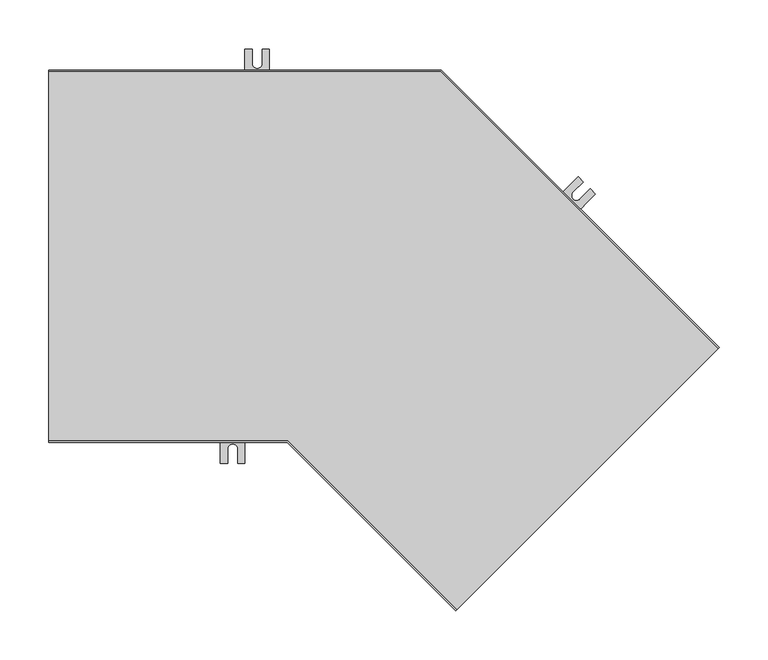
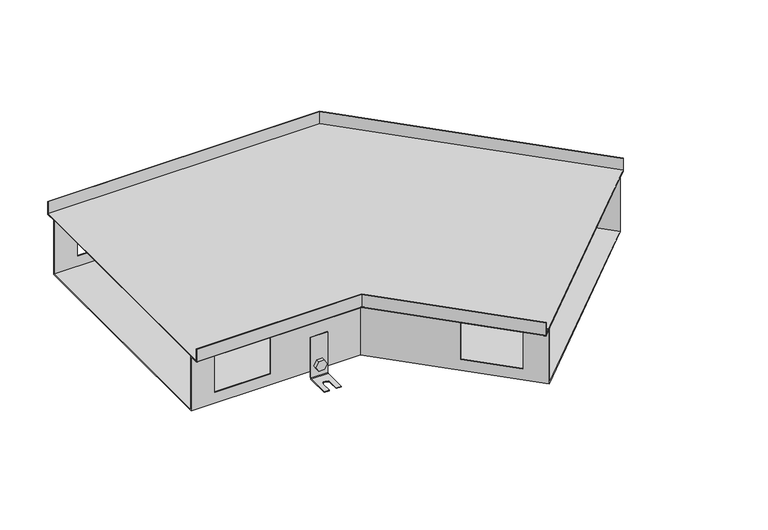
"""IFC4 building model written with IfcOpenShell, lengths in millimetres: proxy geometry, TECHNO_Угловой элемент_KVU : 380_105_135°."""

from ifc_helpers import new_model, si_unit, point, frame, frame_2d, origin, place, context, project, spatial, polyline, circle_curve, ellipse_curve, trimmed, segment, composite_curve, outline, extrude, source, transform, mapped, element, save
from ifc_brep_helpers import plane_surface, cylinder_surface, revolved_surface, advanced_brep


def mechanical_equipment_8923451d(model_context):
    return source(origin(), model_context, "Body", "SolidModel", [
        extrude(outline(composite_curve([segment(trimmed(circle_curve(frame_2d((0.0, -7.5)), 7.5), [point((0.0, -15.0))], [point((0.0, 0.0))], False, "CARTESIAN"), True, "CONTINUOUS"), segment(trimmed(circle_curve(frame_2d((0.0, -7.5)), 7.5), [point((0.0, 0.0))], [point((0.0, -15.0))], False, "CARTESIAN"), True, "CONTINUOUS")], self_intersect=False)), frame((482.1001225, -40.233968, -95.5), z_axis=(0.7071067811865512, 0.7071067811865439, 0.0), x_axis=(0.0, 0.0, 1.0)), (0.0, 0.0, 1.0), 1.5),
        extrude(outline(polyline([(0.0, 0.0), (8.660254, 0.0), (12.990381, -7.5), (8.660254, -15.0), (0.0, -15.0), (-4.330127, -7.5), (0.0, 0.0)])), frame((466.2183246, -33.2617155, -95.5), z_axis=(0.7071067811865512, 0.7071067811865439, 0.0), x_axis=(0.3535533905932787, -0.3535533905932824, -0.8660254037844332)), (0.0, 0.0, 1.0), 5.1),
        advanced_brep(
        [(484.7871283, -44.61803, -50.5), (484.7871283, -44.61803, -113.5), (484.2214429, -45.1837154, -114.3), (460.8869191, -68.5182392, -114.3), (460.8869191, -68.5182392, -115.5), (484.2214429, -45.1837154, -115.5), (485.6356565, -43.7695019, -113.5), (485.6356565, -43.7695019, -50.5), (467.1094588, -26.9403605, -50.5), (467.9579869, -26.0918323, -50.5), (467.9579869, -26.0918323, -113.5), (466.5437734, -27.5060459, -115.5), (443.2092496, -50.8405697, -115.5), (443.2092496, -50.8405697, -114.3), (466.5437734, -27.5060459, -114.3), (467.1094588, -26.9403605, -113.5), (448.5125504, -56.1438705, -114.3), (459.1191522, -45.5372688, -114.3), (466.19022, -52.6083366, -114.3), (455.5836183, -63.2149383, -114.3), (455.5836183, -63.2149383, -115.5), (448.5125504, -56.1438705, -115.5), (466.19022, -52.6083366, -115.5), (459.1191522, -45.5372688, -115.5)],
        [
            (0, 1),
            (1, 2, circle_curve(frame((484.2214429, -45.1837154, -113.5), z_axis=(-0.7071067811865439, 0.7071067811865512, 0.0), x_axis=(-0.7071067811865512, -0.7071067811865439, 0.0)), 0.8)),
            (2, 3),
            (3, 4),
            (4, 5),
            (5, 6, circle_curve(frame((484.2214429, -45.1837154, -113.5), z_axis=(0.7071067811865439, -0.7071067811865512, 0.0), x_axis=(-0.7071067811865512, -0.7071067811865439, 0.0)), 2.0)),
            (6, 7),
            (7, 0),
            (8, 9),
            (9, 10),
            (10, 11, circle_curve(frame((466.5437734, -27.5060459, -113.5), z_axis=(-0.7071067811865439, 0.7071067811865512, 0.0), x_axis=(-0.7071067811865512, -0.7071067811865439, 0.0)), 2.0)),
            (11, 12),
            (12, 13),
            (13, 14),
            (14, 15, circle_curve(frame((466.5437734, -27.5060459, -113.5), z_axis=(0.7071067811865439, -0.7071067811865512, 0.0), x_axis=(-0.7071067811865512, -0.7071067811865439, 0.0)), 0.8)),
            (15, 8),
            (0, 8),
            (15, 1),
            (14, 2),
            (13, 16),
            (16, 17),
            (17, 18, circle_curve(frame((462.6546861, -49.0728027, -114.3), z_axis=(0.0, 0.0, -1.0), x_axis=(0.7071067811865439, -0.7071067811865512, 0.0)), 5.0)),
            (18, 19),
            (19, 3),
            (19, 20),
            (20, 4),
            (12, 21),
            (21, 16),
            (20, 22),
            (22, 23, circle_curve(frame((462.6546861, -49.0728027, -115.5), z_axis=(0.0, 0.0, 1.0), x_axis=(0.7071067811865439, -0.7071067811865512, 0.0)), 5.0)),
            (23, 21),
            (11, 5),
            (10, 6),
            (9, 7),
            (23, 17),
            (18, 22),
        ],
        [
            plane_surface(frame((484.7871283, -44.61803, -50.5), z_axis=(0.7071067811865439, -0.7071067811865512, 0.0), x_axis=(0.0, 0.0, -1.0))),
            plane_surface(frame((467.1094588, -26.9403605, -50.5), z_axis=(-0.7071067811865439, 0.7071067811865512, 0.0), x_axis=(0.0, 0.0, 1.0))),
            plane_surface(frame((484.7871283, -44.61803, -50.5), z_axis=(-0.7071067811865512, -0.7071067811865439, 0.0), x_axis=(-0.7071067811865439, 0.7071067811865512, 0.0))),
            revolved_surface(polyline([(465.97808797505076, -28.071731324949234, -113.5), (483.6557574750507, -45.74940082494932, -113.5)]), (466.5437734, -27.5060459, -113.5), (-0.7071067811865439, 0.7071067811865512, 0.0)),
            plane_surface(frame((484.2214429, -45.1837154, -114.3), z_axis=(0.0, 0.0, 1.0), x_axis=(-0.7071067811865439, 0.7071067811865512, 0.0))),
            plane_surface(frame((460.8869191, -68.5182392, -114.3), z_axis=(-0.7071067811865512, -0.7071067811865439, 0.0), x_axis=(-0.7071067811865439, 0.7071067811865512, 0.0))),
            plane_surface(frame((460.8869191, -68.5182392, -115.5), z_axis=(0.0, 0.0, -1.0), x_axis=(-0.7071067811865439, 0.7071067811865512, 0.0))),
            cylinder_surface(frame((466.5437734, -27.5060459, -113.5), z_axis=(0.7071067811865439, -0.7071067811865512, 0.0), x_axis=(-0.7071067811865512, -0.7071067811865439, 0.0)), 2.0),
            plane_surface(frame((485.6356565, -43.7695019, -113.5), z_axis=(0.7071067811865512, 0.7071067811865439, 0.0), x_axis=(-0.7071067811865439, 0.7071067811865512, 0.0))),
            plane_surface(frame((485.6356565, -43.7695019, -50.5), z_axis=(0.0, 0.0, 1.0), x_axis=(-0.7071067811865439, 0.7071067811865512, 0.0))),
            plane_surface(frame((459.1191522, -45.5372688, -114.3), z_axis=(0.7071067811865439, -0.7071067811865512, 0.0), x_axis=(0.0, 0.0, -1.0))),
            plane_surface(frame((455.5836183, -63.2149383, -114.3), z_axis=(-0.707106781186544, 0.7071067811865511, 0.0), x_axis=(0.0, 0.0, -1.0))),
            revolved_surface(polyline([(466.1902200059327, -52.608336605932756, -114.3), (466.1902200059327, -52.608336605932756, -115.5)]), (462.6546861, -49.0728027, -115.5), (0.0, 0.0, 1.0)),
        ],
        [
            (0, [[1, 2, 3, 4, 5, 6, 7, 8]]),
            (1, [[9, 10, 11, 12, 13, 14, 15, 16]]),
            (2, [[-1, 17, -16, 18]]),
            (3, [[-2, -18, -15, 19]]),
            (4, [[-3, -19, -14, 20, 21, 22, 23, 24]]),
            (5, [[-4, -24, 25, 26]]),
            (5, [[-13, 27, 28, -20]]),
            (6, [[-5, -26, 29, 30, 31, -27, -12, 32]]),
            (7, [[-6, -32, -11, 33]]),
            (8, [[-7, -33, -10, 34]]),
            (9, [[-8, -34, -9, -17]]),
            (10, [[35, -21, -28, -31]]),
            (11, [[36, -29, -25, -23]]),
            (12, [[-35, -30, -36, -22]]),
        ],
    ),
        extrude(outline(composite_curve([segment(trimmed(circle_curve(frame_2d((0.0, -7.5)), 7.5), [point((0.0, -15.0))], [point((0.0, 0.0))], False, "CARTESIAN"), True, "CONTINUOUS"), segment(trimmed(circle_curve(frame_2d((0.0, -7.5)), 7.5), [point((0.0, 0.0))], [point((0.0, -15.0))], False, "CARTESIAN"), True, "CONTINUOUS")], self_intersect=False)), frame((517.6675936, 51.9020456, -95.5), z_axis=(0.7071067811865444, 0.7071067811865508, 0.0), x_axis=(0.0, 0.0, -1.0)), (0.0, 0.0, 1.0), 1.5),
        extrude(outline(polyline([(0.0, 0.0), (4.330127, -7.5), (0.0, -15.0000001), (-8.660254, -15.0), (-12.9903811, -7.5000001), (-8.6602541, 0.0), (0.0, 0.0)])), frame((531.0038072, 42.3842087, -95.5), z_axis=(0.7071067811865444, 0.7071067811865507, 0.0), x_axis=(0.35355339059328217, -0.35355339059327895, 0.8660254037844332)), (0.0, 0.0, 1.0), 5.1),
        advanced_brep(
        [(516.041248, 57.3467678, -50.5), (516.041248, 57.3467678, -113.5), (516.6069335, 57.9124533, -114.3), (539.9414572, 81.2469771, -114.3), (539.9414572, 81.2469771, -115.5), (516.6069335, 57.9124533, -115.5), (515.1927199, 56.4982397, -113.5), (515.1927199, 56.4982397, -50.5), (533.7189176, 39.6690983, -50.5), (532.8703894, 38.8205702, -50.5), (532.8703894, 38.8205702, -113.5), (534.284603, 40.2347837, -115.5), (557.6191268, 63.5693075, -115.5), (557.6191268, 63.5693075, -114.3), (534.284603, 40.2347837, -114.3), (533.7189176, 39.6690983, -113.5), (552.3158259, 68.8726084, -114.3), (541.7092242, 58.2660067, -114.3), (534.6381564, 65.3370745, -114.3), (545.2447581, 75.9436762, -114.3), (545.2447581, 75.9436762, -115.5), (552.3158259, 68.8726084, -115.5), (534.6381564, 65.3370745, -115.5), (541.7092242, 58.2660067, -115.5)],
        [
            (0, 1),
            (1, 2, circle_curve(frame((516.6069335, 57.9124533, -113.5), z_axis=(0.7071067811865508, -0.7071067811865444, 0.0), x_axis=(0.7071067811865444, 0.7071067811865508, 0.0)), 0.8)),
            (2, 3),
            (3, 4),
            (4, 5),
            (5, 6, circle_curve(frame((516.6069335, 57.9124533, -113.5), z_axis=(-0.7071067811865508, 0.7071067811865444, 0.0), x_axis=(0.7071067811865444, 0.7071067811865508, 0.0)), 2.0)),
            (6, 7),
            (7, 0),
            (8, 9),
            (9, 10),
            (10, 11, circle_curve(frame((534.284603, 40.2347837, -113.5), z_axis=(0.7071067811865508, -0.7071067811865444, 0.0), x_axis=(0.7071067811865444, 0.7071067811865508, 0.0)), 2.0)),
            (11, 12),
            (12, 13),
            (13, 14),
            (14, 15, circle_curve(frame((534.284603, 40.2347837, -113.5), z_axis=(-0.7071067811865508, 0.7071067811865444, 0.0), x_axis=(0.7071067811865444, 0.7071067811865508, 0.0)), 0.8)),
            (15, 8),
            (0, 8),
            (15, 1),
            (14, 2),
            (13, 16),
            (16, 17),
            (17, 18, circle_curve(frame((538.1736903, 61.8015406, -114.3), z_axis=(0.0, 0.0, -1.0), x_axis=(-0.7071067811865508, 0.7071067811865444, 0.0)), 5.0)),
            (18, 19),
            (19, 3),
            (19, 20),
            (20, 4),
            (12, 21),
            (21, 16),
            (20, 22),
            (22, 23, circle_curve(frame((538.1736903, 61.8015406, -115.5), z_axis=(0.0, 0.0, 1.0), x_axis=(-0.7071067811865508, 0.7071067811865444, 0.0)), 5.0)),
            (23, 21),
            (11, 5),
            (10, 6),
            (9, 7),
            (23, 17),
            (18, 22),
        ],
        [
            plane_surface(frame((516.041248, 57.3467678, -50.5), z_axis=(-0.7071067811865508, 0.7071067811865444, 0.0), x_axis=(0.0, 0.0, -1.0))),
            plane_surface(frame((533.7189176, 39.6690983, -50.5), z_axis=(0.7071067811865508, -0.7071067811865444, 0.0), x_axis=(0.0, 0.0, 1.0))),
            plane_surface(frame((516.041248, 57.3467678, -50.5), z_axis=(0.7071067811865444, 0.7071067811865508, 0.0), x_axis=(0.7071067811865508, -0.7071067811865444, 0.0))),
            revolved_surface(polyline([(534.8502884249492, 40.800469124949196, -113.5), (517.1726188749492, 58.47813867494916, -113.5)]), (534.284603, 40.2347837, -113.5), (0.7071067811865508, -0.7071067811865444, 0.0)),
            plane_surface(frame((516.6069335, 57.9124533, -114.3), z_axis=(0.0, 0.0, 1.0000000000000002), x_axis=(0.7071067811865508, -0.7071067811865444, 0.0))),
            plane_surface(frame((539.9414572, 81.2469771, -114.3), z_axis=(0.7071067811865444, 0.7071067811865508, 0.0), x_axis=(0.7071067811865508, -0.7071067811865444, 0.0))),
            plane_surface(frame((539.9414572, 81.2469771, -115.5), z_axis=(0.0, 0.0, -1.0000000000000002), x_axis=(0.7071067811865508, -0.7071067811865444, 0.0))),
            cylinder_surface(frame((534.284603, 40.2347837, -113.5), z_axis=(-0.7071067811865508, 0.7071067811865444, 0.0), x_axis=(0.7071067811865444, 0.7071067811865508, 0.0)), 2.0),
            plane_surface(frame((515.1927199, 56.4982397, -113.5), z_axis=(-0.7071067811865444, -0.7071067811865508, 0.0), x_axis=(0.7071067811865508, -0.7071067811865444, 0.0))),
            plane_surface(frame((515.1927199, 56.4982397, -50.5), z_axis=(0.0, 0.0, 1.0000000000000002), x_axis=(0.7071067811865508, -0.7071067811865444, 0.0))),
            plane_surface(frame((541.7092242, 58.2660067, -114.3), z_axis=(-0.7071067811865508, 0.7071067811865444, 0.0), x_axis=(0.0, 0.0, -1.0))),
            plane_surface(frame((545.2447581, 75.9436762, -114.3), z_axis=(0.7071067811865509, -0.7071067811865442, 0.0), x_axis=(0.0, 0.0, -1.0))),
            revolved_surface(polyline([(534.6381563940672, 65.33707450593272, -114.3), (534.6381563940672, 65.33707450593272, -115.5)]), (538.1736903, 61.8015406, -115.5), (0.0, 0.0, 1.0)),
        ],
        [
            (0, [[1, 2, 3, 4, 5, 6, 7, 8]]),
            (1, [[9, 10, 11, 12, 13, 14, 15, 16]]),
            (2, [[-1, 17, -16, 18]]),
            (3, [[-2, -18, -15, 19]]),
            (4, [[-3, -19, -14, 20, 21, 22, 23, 24]]),
            (5, [[-4, -24, 25, 26]]),
            (5, [[-13, 27, 28, -20]]),
            (6, [[-5, -26, 29, 30, 31, -27, -12, 32]]),
            (7, [[-6, -32, -11, 33]]),
            (8, [[-7, -33, -10, 34]]),
            (9, [[-8, -34, -9, -17]]),
            (10, [[35, -21, -28, -31]]),
            (11, [[36, -29, -25, -23]]),
            (12, [[-35, -30, -36, -22]]),
        ],
    ),
        extrude(outline(composite_curve([segment(trimmed(circle_curve(frame_2d((-95.5, 212.5)), 7.5), [point((-95.5, 205.0))], [point((-95.5, 220.0))], False, "CARTESIAN"), True, "CONTINUOUS"), segment(trimmed(circle_curve(frame_2d((-95.5, 212.5)), 7.5), [point((-95.5, 220.0))], [point((-95.5, 205.0))], False, "CARTESIAN"), True, "CONTINUOUS")], self_intersect=False)), frame((0.0, 175.2, 0.0), z_axis=(0.0, 1.0, 0.0), x_axis=(0.0, 0.0, 1.0)), (0.0, 0.0, 1.0), 1.5),
        extrude(outline(polyline([(-95.5, 203.839746), (-103.0, 208.169873), (-103.0, 216.830127), (-95.5, 221.160254), (-88.0, 216.830127), (-88.0, 208.169873), (-95.5, 203.839746)])), frame((0.0, 177.9, 0.0), z_axis=(0.0, 1.0, 0.0), x_axis=(0.0, 0.0, 1.0)), (0.0, 0.0, 1.0), 5.1),
        advanced_brep(
        [(225.0, 177.9, -50.5), (225.0, 176.7, -50.5), (225.0, 176.7, -113.5), (225.0, 178.7, -115.5), (225.0, 211.7, -115.5), (225.0, 211.7, -114.3), (225.0, 178.7, -114.3), (225.0, 177.9, -113.5), (200.0, 177.9, -50.5), (200.0, 177.9, -113.5), (200.0, 178.7, -114.3), (200.0, 211.7, -114.3), (200.0, 211.7, -115.5), (200.0, 178.7, -115.5), (200.0, 176.7, -113.5), (200.0, 176.7, -50.5), (217.5, 211.7, -114.3), (217.5, 196.7, -114.3), (207.5, 196.7, -114.3), (207.5, 211.7, -114.3), (207.5, 211.7, -115.5), (217.5, 211.7, -115.5), (207.5, 196.7, -115.5), (217.5, 196.7, -115.5)],
        [
            (0, 1),
            (1, 2),
            (2, 3, circle_curve(frame((225.0, 178.7, -113.5), z_axis=(1.0, 0.0, 0.0), x_axis=(0.0, 1.0, 0.0)), 2.0)),
            (3, 4),
            (4, 5),
            (5, 6),
            (6, 7, circle_curve(frame((225.0, 178.7, -113.5), z_axis=(-1.0, 0.0, 0.0), x_axis=(0.0, 1.0, 0.0)), 0.8)),
            (7, 0),
            (8, 9),
            (9, 10, circle_curve(frame((200.0, 178.7, -113.5), z_axis=(1.0, 0.0, 0.0), x_axis=(0.0, 1.0, 0.0)), 0.8)),
            (10, 11),
            (11, 12),
            (12, 13),
            (13, 14, circle_curve(frame((200.0, 178.7, -113.5), z_axis=(-1.0, 0.0, 0.0), x_axis=(0.0, 1.0, 0.0)), 2.0)),
            (14, 15),
            (15, 8),
            (7, 9),
            (8, 0),
            (6, 10),
            (5, 16),
            (16, 17),
            (17, 18, circle_curve(frame((212.5, 196.7, -114.3), z_axis=(0.0, 0.0, -1.0), x_axis=(1.0, 0.0, 0.0)), 5.0)),
            (18, 19),
            (19, 11),
            (19, 20),
            (20, 12),
            (4, 21),
            (21, 16),
            (3, 13),
            (20, 22),
            (22, 23, circle_curve(frame((212.5, 196.7, -115.5), z_axis=(0.0, 0.0, 1.0), x_axis=(1.0, 0.0, 0.0)), 5.0)),
            (23, 21),
            (2, 14),
            (1, 15),
            (18, 22),
            (23, 17),
        ],
        [
            plane_surface(frame((225.0, 177.9, -50.5), z_axis=(1.0, 0.0, 0.0), x_axis=(0.0, 0.0, -1.0))),
            plane_surface(frame((200.0, 177.9, -50.5), z_axis=(-1.0, 0.0, 0.0), x_axis=(0.0, 0.0, 1.0))),
            plane_surface(frame((225.0, 177.9, -50.5), z_axis=(0.0, 1.0, 0.0), x_axis=(-1.0, 0.0, 0.0))),
            revolved_surface(polyline([(200.0, 179.5, -113.5), (225.0, 179.5, -113.5)]), (200.0, 178.7, -113.5), (-1.0, 0.0, 0.0)),
            plane_surface(frame((225.0, 178.7, -114.3), z_axis=(0.0, 0.0, 1.0), x_axis=(-1.0, 0.0, 0.0))),
            plane_surface(frame((225.0, 211.7, -114.3), z_axis=(0.0, 1.0, 0.0), x_axis=(-1.0, 0.0, 0.0))),
            plane_surface(frame((225.0, 211.7, -115.5), z_axis=(0.0, 0.0, -1.0), x_axis=(-1.0, 0.0, 0.0))),
            cylinder_surface(frame((200.0, 178.7, -113.5), z_axis=(1.0, 0.0, 0.0), x_axis=(0.0, 1.0, 0.0)), 2.0),
            plane_surface(frame((225.0, 176.7, -113.5), z_axis=(0.0, -1.0, 0.0), x_axis=(-1.0, 0.0, 0.0))),
            plane_surface(frame((225.0, 176.7, -50.5), z_axis=(0.0, 0.0, 1.0), x_axis=(-1.0, 0.0, 0.0))),
            plane_surface(frame((207.5, 196.7, -114.3), z_axis=(1.0, 0.0, 0.0), x_axis=(0.0, 0.0, -1.0))),
            plane_surface(frame((217.5, 211.7, -114.3), z_axis=(-1.0, 0.0, 0.0), x_axis=(0.0, 0.0, -1.0))),
            revolved_surface(polyline([(217.5, 196.7, -114.3), (217.5, 196.7, -115.5)]), (212.5, 196.7, -115.5), (0.0, 0.0, 1.0)),
        ],
        [
            (0, [[1, 2, 3, 4, 5, 6, 7, 8]]),
            (1, [[9, 10, 11, 12, 13, 14, 15, 16]]),
            (2, [[17, -9, 18, -8]]),
            (3, [[19, -10, -17, -7]]),
            (4, [[20, 21, 22, 23, 24, -11, -19, -6]]),
            (5, [[-24, 25, 26, -12]]),
            (5, [[27, 28, -20, -5]]),
            (6, [[29, -13, -26, 30, 31, 32, -27, -4]]),
            (7, [[33, -14, -29, -3]]),
            (8, [[34, -15, -33, -2]]),
            (9, [[-18, -16, -34, -1]]),
            (10, [[-30, -25, -23, 35]]),
            (11, [[-21, -28, -32, 36]]),
            (12, [[-22, -36, -31, -35]]),
        ],
    ),
        extrude(outline(composite_curve([segment(trimmed(circle_curve(frame_2d((-95.5, 187.5)), 7.5), [point((-95.5, 180.0))], [point((-95.5, 195.0))], False, "CARTESIAN"), True, "CONTINUOUS"), segment(trimmed(circle_curve(frame_2d((-95.5, 187.5)), 7.5), [point((-95.5, 195.0))], [point((-95.5, 180.0))], False, "CARTESIAN"), True, "CONTINUOUS")], self_intersect=False)), frame((0.0, -176.7, 0.0), z_axis=(0.0, 1.0, 0.0), x_axis=(0.0, 0.0, 1.0)), (0.0, 0.0, 1.0), 1.5),
        extrude(outline(polyline([(-95.5, 178.839746), (-103.0, 183.169873), (-103.0, 191.830127), (-95.5, 196.160254), (-88.0, 191.830127), (-88.0, 183.169873), (-95.5, 178.839746)])), frame((0.0, -183.0, 0.0), z_axis=(0.0, 1.0, 0.0), x_axis=(0.0, 0.0, 1.0)), (0.0, 0.0, 1.0), 5.1),
        advanced_brep(
        [(200.0, -177.9, -50.5), (200.0, -177.9, -113.5), (200.0, -178.7, -114.3), (200.0, -211.7, -114.3), (200.0, -211.7, -115.5), (200.0, -178.7, -115.5), (200.0, -176.7, -113.5), (200.0, -176.7, -50.5), (175.0, -177.9, -50.5), (175.0, -176.7, -50.5), (175.0, -176.7, -113.5), (175.0, -178.7, -115.5), (175.0, -211.7, -115.5), (175.0, -211.7, -114.3), (175.0, -178.7, -114.3), (175.0, -177.9, -113.5), (182.5, -211.7, -114.3), (182.5, -196.7, -114.3), (192.5, -196.7, -114.3), (192.5, -211.7, -114.3), (192.5, -211.7, -115.5), (182.5, -211.7, -115.5), (192.5, -196.7, -115.5), (182.5, -196.7, -115.5)],
        [
            (0, 1),
            (1, 2, circle_curve(frame((200.0, -178.7, -113.5), z_axis=(-1.0, 0.0, 0.0), x_axis=(0.0, -1.0, 0.0)), 0.8)),
            (2, 3),
            (3, 4),
            (4, 5),
            (5, 6, circle_curve(frame((200.0, -178.7, -113.5), z_axis=(1.0, 0.0, 0.0), x_axis=(0.0, -1.0, 0.0)), 2.0)),
            (6, 7),
            (7, 0),
            (8, 9),
            (9, 10),
            (10, 11, circle_curve(frame((175.0, -178.7, -113.5), z_axis=(-1.0, 0.0, 0.0), x_axis=(0.0, -1.0, 0.0)), 2.0)),
            (11, 12),
            (12, 13),
            (13, 14),
            (14, 15, circle_curve(frame((175.0, -178.7, -113.5), z_axis=(1.0, 0.0, 0.0), x_axis=(0.0, -1.0, 0.0)), 0.8)),
            (15, 8),
            (0, 8),
            (15, 1),
            (14, 2),
            (13, 16),
            (16, 17),
            (17, 18, circle_curve(frame((187.5, -196.7, -114.3), z_axis=(0.0, 0.0, -1.0), x_axis=(1.0, 0.0, 0.0)), 5.0)),
            (18, 19),
            (19, 3),
            (19, 20),
            (20, 4),
            (12, 21),
            (21, 16),
            (20, 22),
            (22, 23, circle_curve(frame((187.5, -196.7, -115.5), z_axis=(0.0, 0.0, 1.0), x_axis=(1.0, 0.0, 0.0)), 5.0)),
            (23, 21),
            (11, 5),
            (10, 6),
            (9, 7),
            (23, 17),
            (18, 22),
        ],
        [
            plane_surface(frame((200.0, -177.9, -50.5), z_axis=(1.0, 0.0, 0.0), x_axis=(0.0, 0.0, -1.0))),
            plane_surface(frame((175.0, -177.9, -50.5), z_axis=(-1.0, 0.0, 0.0), x_axis=(0.0, 0.0, 1.0))),
            plane_surface(frame((200.0, -177.9, -50.5), z_axis=(0.0, -1.0, 0.0), x_axis=(-1.0, 0.0, 0.0))),
            revolved_surface(polyline([(175.0, -179.5, -113.5), (200.0, -179.5, -113.5)]), (175.0, -178.7, -113.5), (-1.0, 0.0, 0.0)),
            plane_surface(frame((200.0, -178.7, -114.3), z_axis=(0.0, 0.0, 1.0), x_axis=(-1.0, 0.0, 0.0))),
            plane_surface(frame((200.0, -211.7, -114.3), z_axis=(0.0, -1.0, 0.0), x_axis=(-1.0, 0.0, 0.0))),
            plane_surface(frame((200.0, -211.7, -115.5), z_axis=(0.0, 0.0, -1.0), x_axis=(-1.0, 0.0, 0.0))),
            cylinder_surface(frame((175.0, -178.7, -113.5), z_axis=(1.0, 0.0, 0.0), x_axis=(0.0, -1.0, 0.0)), 2.0),
            plane_surface(frame((200.0, -176.7, -113.5), z_axis=(0.0, 1.0, 0.0), x_axis=(-1.0, 0.0, 0.0))),
            plane_surface(frame((200.0, -176.7, -50.5), z_axis=(0.0, 0.0, 1.0), x_axis=(-1.0, 0.0, 0.0))),
            plane_surface(frame((182.5, -196.7, -114.3), z_axis=(1.0, 0.0, 0.0), x_axis=(0.0, 0.0, -1.0))),
            plane_surface(frame((192.5, -211.7, -114.3), z_axis=(-1.0, 0.0, 0.0), x_axis=(0.0, 0.0, -1.0))),
            revolved_surface(polyline([(192.5, -196.7, -114.3), (192.5, -196.7, -115.5)]), (187.5, -196.7, -115.5), (0.0, 0.0, 1.0)),
        ],
        [
            (0, [[1, 2, 3, 4, 5, 6, 7, 8]]),
            (1, [[9, 10, 11, 12, 13, 14, 15, 16]]),
            (2, [[-1, 17, -16, 18]]),
            (3, [[-2, -18, -15, 19]]),
            (4, [[-3, -19, -14, 20, 21, 22, 23, 24]]),
            (5, [[-4, -24, 25, 26]]),
            (5, [[-13, 27, 28, -20]]),
            (6, [[-5, -26, 29, 30, 31, -27, -12, 32]]),
            (7, [[-6, -32, -11, 33]]),
            (8, [[-7, -33, -10, 34]]),
            (9, [[-8, -34, -9, -17]]),
            (10, [[35, -21, -28, -31]]),
            (11, [[36, -29, -25, -23]]),
            (12, [[-35, -30, -36, -22]]),
        ],
    ),
        extrude(outline(polyline([(682.8477377, -94.044794), (415.8442172, -361.0483146), (243.5959026, -188.8), (0.0, -188.8), (0.0, 188.8), (400.0029437, 188.8), (682.8477377, -94.044794)])), frame((0.0, 0.0, -19.3), z_axis=(0.0, 0.0, 1.0), x_axis=(1.0, 0.0, 0.0)), (0.0, 0.0, 1.0), 1.2),
        advanced_brep(
        [(414.995689, -361.8968427, -19.3), (415.8442172, -361.0483146, -20.5), (425.4608694, -351.4316624, -20.5), (425.4608694, -351.4316624, -105.0), (673.2310855, -103.6614462, -105.0), (673.2310855, -103.6614462, -20.5), (682.8477377, -94.044794, -20.5), (683.6962659, -93.1962659, -19.3), (683.6962659, -93.1962659, 0.0), (682.8477377, -94.044794, 0.0), (682.8477377, -94.044794, -19.3), (673.2310855, -103.6614462, -19.3), (672.3825574, -104.5099744, -20.5), (672.3825574, -104.5099744, -103.8), (426.3093975, -350.5831342, -103.8), (426.3093975, -350.5831342, -20.5), (425.4608694, -351.4316624, -19.3), (415.8442172, -361.0483146, -19.3), (415.8442172, -361.0483146, 0.0), (414.995689, -361.8968427, 0.0), (0.0, -190.0, -19.3), (0.0, -190.0, 0.0), (0.0, -188.8, 0.0), (0.0, -188.8, -19.3), (0.0, -175.2, -19.3), (0.0, -174.0, -20.5), (0.0, -174.0, -103.8), (0.0, 174.0, -103.8), (0.0, 174.0, -20.5), (0.0, 175.2, -19.3), (0.0, 188.8, -19.3), (0.0, 188.8, 0.0), (0.0, 190.0, 0.0), (0.0, 190.0, -19.3), (0.0, 188.8, -20.5), (0.0, 175.2, -20.5), (0.0, 175.2, -105.0), (0.0, -175.2, -105.0), (0.0, -175.2, -20.5), (0.0, -188.8, -20.5), (243.5959026, -188.8, -20.5), (243.0988463, -190.0, -19.3), (243.5959026, -188.8, 0.0), (243.5959026, -188.8, -19.3), (249.229207, -175.2, -105.0), (249.229207, -175.2, -20.5), (35.0, -175.2, -31.0), (117.0, -175.2, -31.0), (117.0, -175.2, -88.0), (35.0, -175.2, -88.0), (249.7262633, -174.0, -20.5), (249.7262633, -174.0, -103.8), (117.0, -174.0, -31.0), (35.0, -174.0, -31.0), (35.0, -174.0, -88.0), (117.0, -174.0, -88.0), (249.229207, -175.2, -19.3), (342.729376, -268.700169, -31.0), (400.712132, -326.682925, -31.0), (400.712132, -326.682925, -88.0), (342.729376, -268.700169, -88.0), (394.3696393, 175.2, -105.0), (393.872583, 174.0, -103.8), (401.5606602, -325.8343969, -31.0), (343.5779041, -267.8516408, -31.0), (343.5779041, -267.8516408, -88.0), (401.5606602, -325.8343969, -88.0), (243.0988463, -190.0, 0.0), (394.3696393, 175.2, -20.5), (648.4823482, -78.9127089, -31.0), (590.4995921, -20.9299528, -31.0), (590.4995921, -20.9299528, -88.0), (648.4823482, -78.9127089, -88.0), (400.0029437, 188.8, -20.5), (400.5, 190.0, -19.3), (400.5, 190.0, 0.0), (400.0029437, 188.8, 0.0), (400.0029437, 188.8, -19.3), (394.3696393, 175.2, -19.3), (393.872583, 174.0, -20.5), (589.651064, -21.778481, -31.0), (647.63382, -79.761237, -31.0), (647.63382, -79.761237, -88.0), (589.651064, -21.778481, -88.0), (117.0, 175.2, -31.0), (35.0, 175.2, -31.0), (35.0, 175.2, -88.0), (117.0, 175.2, -88.0), (35.0, 174.0, -31.0), (117.0, 174.0, -31.0), (117.0, 174.0, -88.0), (35.0, 174.0, -88.0)],
        [
            (0, 1, circle_curve(frame((415.8442172, -361.0483146, -19.3), z_axis=(0.707106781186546, -0.707106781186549, 0.0), x_axis=(-0.707106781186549, -0.707106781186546, 0.0)), 1.2)),
            (1, 2),
            (2, 3),
            (3, 4),
            (4, 5),
            (5, 6),
            (6, 7, circle_curve(frame((682.8477377, -94.044794, -19.3), z_axis=(0.707106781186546, -0.707106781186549, 0.0), x_axis=(-0.707106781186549, -0.707106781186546, 0.0)), 1.2)),
            (7, 8),
            (8, 9),
            (9, 10),
            (10, 11),
            (11, 12, circle_curve(frame((673.2310855, -103.6614462, -20.5), z_axis=(0.707106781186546, -0.707106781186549, 0.0), x_axis=(-0.707106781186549, -0.707106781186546, 0.0)), 1.2)),
            (12, 13),
            (13, 14),
            (14, 15),
            (15, 16, circle_curve(frame((425.4608694, -351.4316624, -20.5), z_axis=(0.707106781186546, -0.707106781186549, 0.0), x_axis=(-0.707106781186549, -0.707106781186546, 0.0)), 1.2)),
            (16, 17),
            (17, 18),
            (18, 19),
            (19, 0),
            (20, 21),
            (21, 22),
            (22, 23),
            (23, 24),
            (24, 25, circle_curve(frame((0.0, -175.2, -20.5), z_axis=(-1.0, 0.0, 0.0), x_axis=(0.0, -1.0, 0.0)), 1.2)),
            (25, 26),
            (26, 27),
            (27, 28),
            (28, 29, circle_curve(frame((0.0, 175.2, -20.5), z_axis=(-1.0, 0.0, 0.0), x_axis=(0.0, -1.0, 0.0)), 1.2)),
            (29, 30),
            (30, 31),
            (31, 32),
            (32, 33),
            (33, 34, circle_curve(frame((0.0, 188.8, -19.3), z_axis=(-1.0, 0.0, 0.0), x_axis=(0.0, -1.0, 0.0)), 1.2)),
            (34, 35),
            (35, 36),
            (36, 37),
            (37, 38),
            (38, 39),
            (39, 20, circle_curve(frame((0.0, -188.8, -19.3), z_axis=(-1.0, 0.0, 0.0), x_axis=(0.0, -1.0, 0.0)), 1.2)),
            (39, 40),
            (40, 41, ellipse_curve(frame((243.5959026, -188.8, -19.3), z_axis=(-0.9238795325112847, 0.3826834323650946, 0.0), x_axis=(0.3826834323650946, 0.9238795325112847, 0.0)), 1.2988706, 1.2)),
            (41, 20),
            (22, 42),
            (42, 43),
            (43, 23),
            (37, 44),
            (44, 45),
            (45, 38),
            (46, 47),
            (47, 48),
            (48, 49),
            (49, 46),
            (25, 50),
            (50, 51),
            (51, 26),
            (52, 53),
            (53, 54),
            (54, 55),
            (55, 52),
            (24, 56),
            (56, 50, ellipse_curve(frame((249.229207, -175.2, -20.5), z_axis=(-0.9238795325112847, 0.3826834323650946, 0.0), x_axis=(0.3826834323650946, 0.9238795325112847, 0.0)), 1.2988706, 1.2)),
            (0, 41),
            (40, 1),
            (45, 2),
            (44, 3),
            (57, 58),
            (58, 59),
            (59, 60),
            (60, 57),
            (36, 61),
            (61, 4),
            (13, 62),
            (62, 27),
            (51, 14),
            (50, 15),
            (63, 64),
            (64, 65),
            (65, 66),
            (66, 63),
            (56, 16),
            (43, 17),
            (42, 18),
            (21, 67),
            (67, 19),
            (61, 68),
            (68, 5),
            (69, 70),
            (70, 71),
            (71, 72),
            (72, 69),
            (68, 35),
            (34, 73),
            (73, 6),
            (73, 74, ellipse_curve(frame((400.0029437, 188.8, -19.3), z_axis=(0.9238795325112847, -0.3826834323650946, 0.0), x_axis=(-0.38268343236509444, -0.9238795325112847, 0.0)), 1.2988706, 1.2)),
            (74, 7),
            (74, 75),
            (75, 8),
            (75, 32),
            (31, 76),
            (76, 9),
            (76, 77),
            (77, 10),
            (77, 30),
            (29, 78),
            (78, 11),
            (78, 79, ellipse_curve(frame((394.3696393, 175.2, -20.5), z_axis=(0.9238795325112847, -0.3826834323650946, 0.0), x_axis=(-0.38268343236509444, -0.9238795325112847, 0.0)), 1.2988706, 1.2)),
            (79, 12),
            (79, 62),
            (80, 81),
            (81, 82),
            (82, 83),
            (83, 80),
            (84, 85),
            (85, 86),
            (86, 87),
            (87, 84),
            (33, 74),
            (28, 79),
            (88, 89),
            (89, 90),
            (90, 91),
            (91, 88),
            (41, 67),
            (46, 53),
            (52, 47),
            (88, 85),
            (84, 89),
            (49, 54),
            (91, 86),
            (48, 55),
            (90, 87),
            (57, 64),
            (63, 58),
            (80, 70),
            (69, 81),
            (66, 59),
            (72, 82),
            (65, 60),
            (71, 83),
        ],
        [
            plane_surface(frame((549.3459774, -227.5465543, 0.0), z_axis=(0.707106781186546, -0.707106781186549, 0.0), x_axis=(0.0, 0.0, 1.0))),
            plane_surface(frame((0.0, 0.0, 0.0), z_axis=(-1.0, 0.0, 0.0), x_axis=(0.0, 0.0, 1.0))),
            cylinder_surface(frame((321.7994231, -188.8, -19.3), z_axis=(1.0, 0.0, 0.0), x_axis=(0.0, -1.0, 0.0)), 1.2),
            plane_surface(frame((243.5959026, -188.8, -19.3), z_axis=(0.0, 1.0, 0.0), x_axis=(-1.0, 0.0, 0.0))),
            plane_surface(frame((249.229207, -175.2, -20.5), z_axis=(0.0, -1.0, 0.0), x_axis=(-1.0, 0.0, 0.0))),
            plane_surface(frame((249.7262633, -174.0, -103.8), z_axis=(0.0, 1.0, 0.0), x_axis=(-1.0, 0.0, 0.0))),
            cylinder_surface(frame((321.7994231, -175.2, -20.5), z_axis=(1.0, 0.0, 0.0), x_axis=(0.0, -1.0, 0.0)), 1.2),
            cylinder_surface(frame((415.8442172, -361.0483146, -19.3), z_axis=(0.707106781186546, -0.707106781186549, 0.0), x_axis=(-0.707106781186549, -0.707106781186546, 0.0)), 1.2),
            plane_surface(frame((415.8442172, -361.0483146, -20.5), z_axis=(0.0, 0.0, -1.0), x_axis=(-0.7071067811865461, 0.7071067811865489, 0.0))),
            plane_surface(frame((425.4608694, -351.4316624, -20.5), z_axis=(-0.7071067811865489, -0.7071067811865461, 0.0), x_axis=(-0.7071067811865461, 0.7071067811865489, 0.0))),
            plane_surface(frame((425.4608694, -351.4316624, -105.0), z_axis=(0.0, 0.0, -1.0), x_axis=(-0.707106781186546, 0.7071067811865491, 0.0))),
            plane_surface(frame((672.3825574, -104.5099744, -103.8), z_axis=(0.0, 0.0, 1.0), x_axis=(-0.7071067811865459, 0.7071067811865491, 0.0))),
            plane_surface(frame((426.3093975, -350.5831342, -103.8), z_axis=(0.7071067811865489, 0.7071067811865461, 0.0), x_axis=(-0.7071067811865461, 0.7071067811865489, 0.0))),
            cylinder_surface(frame((425.4608694, -351.4316624, -20.5), z_axis=(0.707106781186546, -0.707106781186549, 0.0), x_axis=(-0.707106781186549, -0.707106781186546, 0.0)), 1.2),
            plane_surface(frame((425.4608694, -351.4316624, -19.3), z_axis=(0.0, 0.0, 1.0), x_axis=(-0.7071067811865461, 0.7071067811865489, 0.0))),
            plane_surface(frame((415.8442172, -361.0483146, -19.3), z_axis=(0.707106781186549, 0.7071067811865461, 0.0), x_axis=(-0.7071067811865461, 0.707106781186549, 0.0))),
            plane_surface(frame((415.8442172, -361.0483146, 0.0), z_axis=(0.0, 0.0, 1.0), x_axis=(-0.7071067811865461, 0.707106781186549, 0.0))),
            plane_surface(frame((673.2310855, -103.6614462, -105.0), z_axis=(0.7071067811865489, 0.7071067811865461, 0.0), x_axis=(-0.7071067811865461, 0.7071067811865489, 0.0))),
            plane_surface(frame((673.2310855, -103.6614462, -20.5), z_axis=(0.0, 0.0, -1.0), x_axis=(-0.7071067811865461, 0.707106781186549, 0.0))),
            cylinder_surface(frame((682.8477377, -94.044794, -19.3), z_axis=(0.707106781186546, -0.707106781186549, 0.0), x_axis=(-0.707106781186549, -0.707106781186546, 0.0)), 1.2),
            plane_surface(frame((683.6962659, -93.1962659, -19.3), z_axis=(0.7071067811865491, 0.7071067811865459, 0.0), x_axis=(-0.7071067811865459, 0.7071067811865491, 0.0))),
            plane_surface(frame((683.6962659, -93.1962659, 0.0), z_axis=(0.0, 0.0, 1.0), x_axis=(-0.7071067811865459, 0.7071067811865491, 0.0))),
            plane_surface(frame((682.8477377, -94.044794, 0.0), z_axis=(-0.7071067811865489, -0.7071067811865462, 0.0), x_axis=(-0.7071067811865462, 0.7071067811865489, 0.0))),
            plane_surface(frame((682.8477377, -94.044794, -19.3), z_axis=(0.0, 0.0, 1.0), x_axis=(-0.7071067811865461, 0.707106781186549, 0.0))),
            cylinder_surface(frame((673.2310855, -103.6614462, -20.5), z_axis=(0.707106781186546, -0.707106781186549, 0.0), x_axis=(-0.707106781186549, -0.707106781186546, 0.0)), 1.2),
            plane_surface(frame((672.3825574, -104.5099744, -20.5), z_axis=(-0.7071067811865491, -0.7071067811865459, 0.0), x_axis=(-0.7071067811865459, 0.7071067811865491, 0.0))),
            plane_surface(frame((394.3696393, 175.2, -105.0), z_axis=(0.0, 1.0, 0.0), x_axis=(-1.0, 0.0, 0.0))),
            cylinder_surface(frame((321.7994231, 188.8, -19.3), z_axis=(1.0, 0.0, 0.0), x_axis=(0.0, -1.0, 0.0)), 1.2),
            plane_surface(frame((400.5, 190.0, -19.3), z_axis=(0.0, 1.0, 0.0), x_axis=(-1.0, 0.0, 0.0))),
            plane_surface(frame((400.0029437, 188.8, 0.0), z_axis=(0.0, -1.0, 0.0), x_axis=(-1.0, 0.0, 0.0))),
            cylinder_surface(frame((321.7994231, 175.2, -20.5), z_axis=(1.0, 0.0, 0.0), x_axis=(0.0, -1.0, 0.0)), 1.2),
            plane_surface(frame((393.872583, 174.0, -20.5), z_axis=(0.0, -1.0, 0.0), x_axis=(-1.0, 0.0, 0.0))),
            plane_surface(frame((243.0988463, -190.0, 0.0), z_axis=(0.0, -1.0, 0.0), x_axis=(-1.0, 0.0, 0.0))),
            plane_surface(frame((414.995689, -361.8968427, 0.0), z_axis=(-0.7071067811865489, -0.7071067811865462, 0.0), x_axis=(-0.7071067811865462, 0.7071067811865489, 0.0))),
            plane_surface(frame((35.0, 190.0, -31.0), z_axis=(0.0, 0.0, -1.0), x_axis=(0.0, -1.0, 0.0))),
            plane_surface(frame((35.0, 190.0, -88.0), z_axis=(1.0, 0.0, 0.0), x_axis=(0.0, -1.0, 0.0))),
            plane_surface(frame((117.0, 190.0, -88.0), z_axis=(0.0, 0.0, 1.0), x_axis=(0.0, -1.0, 0.0))),
            plane_surface(frame((117.0, 190.0, -31.0), z_axis=(-1.0, 0.0, 0.0), x_axis=(0.0, -1.0, 0.0))),
            plane_surface(frame((600.9647725, -10.4647725, -31.0), z_axis=(0.0, 0.0, -1.0), x_axis=(-0.707106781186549, -0.7071067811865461, 0.0))),
            plane_surface(frame((658.9475285, -68.4475285, -31.0), z_axis=(-0.7071067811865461, 0.707106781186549, 0.0), x_axis=(-0.707106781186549, -0.7071067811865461, 0.0))),
            plane_surface(frame((658.9475285, -68.4475285, -88.0), z_axis=(0.0, 0.0, 1.0), x_axis=(-0.707106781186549, -0.7071067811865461, 0.0))),
            plane_surface(frame((600.9647725, -10.4647725, -88.0), z_axis=(0.7071067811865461, -0.707106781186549, 0.0), x_axis=(-0.707106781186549, -0.7071067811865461, 0.0))),
        ],
        [
            (0, [[1, 2, 3, 4, 5, 6, 7, 8, 9, 10, 11, 12, 13, 14, 15, 16, 17, 18, 19, 20]]),
            (1, [[21, 22, 23, 24, 25, 26, 27, 28, 29, 30, 31, 32, 33, 34, 35, 36, 37, 38, 39, 40]]),
            (2, [[-40, 41, 42, 43]]),
            (3, [[-23, 44, 45, 46]]),
            (4, [[-38, 47, 48, 49], [50, 51, 52, 53]]),
            (5, [[-26, 54, 55, 56], [57, 58, 59, 60]]),
            (6, [[-25, 61, 62, -54]]),
            (7, [[-1, 63, -42, 64]]),
            (8, [[-2, -64, -41, -39, -49, 65]]),
            (9, [[-3, -65, -48, 66], [67, 68, 69, 70]]),
            (10, [[-4, -66, -47, -37, 71, 72]]),
            (11, [[-14, 73, 74, -27, -56, 75]]),
            (12, [[-15, -75, -55, 76], [77, 78, 79, 80]]),
            (13, [[-16, -76, -62, 81]]),
            (14, [[-17, -81, -61, -24, -46, 82]]),
            (15, [[-18, -82, -45, 83]]),
            (16, [[-19, -83, -44, -22, 84, 85]]),
            (17, [[-5, -72, 86, 87], [88, 89, 90, 91]]),
            (18, [[-6, -87, 92, -35, 93, 94]]),
            (19, [[-7, -94, 95, 96]]),
            (20, [[-8, -96, 97, 98]]),
            (21, [[-9, -98, 99, -32, 100, 101]]),
            (22, [[-10, -101, 102, 103]]),
            (23, [[-11, -103, 104, -30, 105, 106]]),
            (24, [[-12, -106, 107, 108]]),
            (25, [[-13, -108, 109, -73], [110, 111, 112, 113]]),
            (26, [[-36, -92, -86, -71], [114, 115, 116, 117]]),
            (27, [[-34, 118, -95, -93]]),
            (28, [[-33, -99, -97, -118]]),
            (29, [[-31, -104, -102, -100]]),
            (30, [[-29, 119, -107, -105]]),
            (31, [[-28, -74, -109, -119], [120, 121, 122, 123]]),
            (32, [[-21, -43, 124, -84]]),
            (33, [[-20, -85, -124, -63]]),
            (34, [[125, -57, 126, -50]]),
            (34, [[127, -114, 128, -120]]),
            (35, [[-125, -53, 129, -58]]),
            (35, [[-127, -123, 130, -115]]),
            (36, [[-129, -52, 131, -59]]),
            (36, [[-130, -122, 132, -116]]),
            (37, [[-131, -51, -126, -60]]),
            (37, [[-132, -121, -128, -117]]),
            (38, [[133, -77, 134, -67]]),
            (38, [[135, -88, 136, -110]]),
            (39, [[-134, -80, 137, -68]]),
            (39, [[-136, -91, 138, -111]]),
            (40, [[-137, -79, 139, -69]]),
            (40, [[-138, -90, 140, -112]]),
            (41, [[-133, -70, -139, -78]]),
            (41, [[-135, -113, -140, -89]]),
        ],
    ),
    ])


if __name__ == "__main__":
    model = new_model("IFC4")
    model_context = context("Model", 3, world=origin())
    ifc_project = project(units=[si_unit("LENGTHUNIT", "METRE", prefix="MILLI")], contexts=[model_context])
    site = spatial("IfcSite", under=ifc_project)
    building = spatial("IfcBuilding", under=site)
    placement = place(None, origin())
    mechanical_equipment_shape = mechanical_equipment_8923451d(model_context)
    element("IfcBuildingElementProxy", 1, Name="TECHNO_Угловой элемент_KVU : 380_105_135°", ObjectType="TECHNO_Угловой элемент_KVU : 380_105_135°", at=placement, inside=building, context=model_context, shape_type="MappedRepresentation", body=[
        mapped(mechanical_equipment_shape, transform((0.0, 0.0, 0.0), x_axis=(1.0, 0.0, 0.0), y_axis=(0.0, 1.0, 0.0), z_axis=(0.0, 0.0, 1.0))),
    ])
    save(model, "model.ifc")
